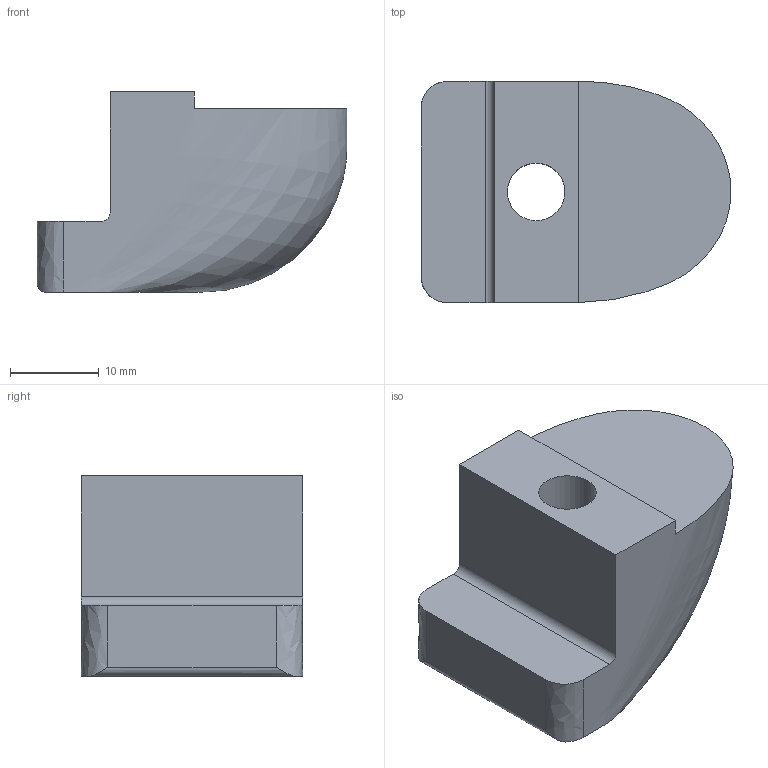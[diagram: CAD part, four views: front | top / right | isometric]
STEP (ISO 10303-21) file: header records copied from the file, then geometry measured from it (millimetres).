
FILE_DESCRIPTION (( 'STEP AP214' ), '1' );
FILE_NAME ('L19134A.step', '2024-12-03T16:22:35', ( '' ), ( '' ), 'SwSTEP 2.0', 'SolidWorks 2023', '' );
FILE_SCHEMA (( 'AUTOMOTIVE_DESIGN' ));
Length unit declared in the file: millimetre
Products named in the file (1): L19134A
Bounding box: 35 x 25 x 22.65 mm (x, y, z)
Volume: 11259.2 mm3; surface area: 3814.5 mm2
Topology: 1 solids, 1 shells, 22 faces, 59 edges, 39 vertices
Faces by surface type: plane 15, bspline 4, cylinder 3
Full cylindrical faces by diameter (mm): 6.5 x1
Entity records: 1295 total; most frequent: CARTESIAN_POINT 747, ORIENTED_EDGE 114, DIRECTION 97, EDGE_CURVE 57, VERTEX_POINT 38, VECTOR 35, LINE 35, AXIS2_PLACEMENT_3D 31
